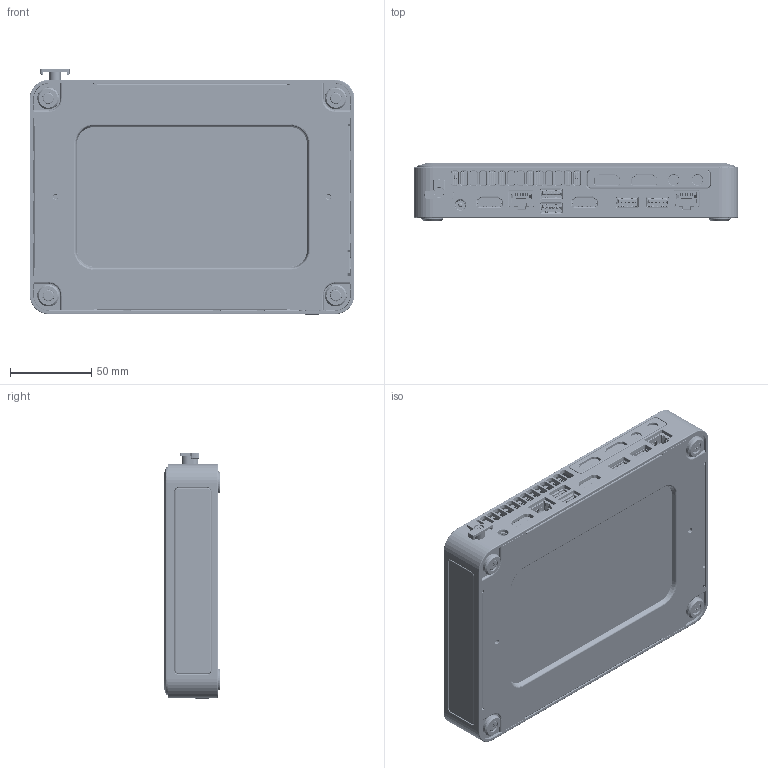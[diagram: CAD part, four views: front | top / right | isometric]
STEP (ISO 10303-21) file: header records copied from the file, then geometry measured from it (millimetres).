
FILE_DESCRIPTION (( 'STEP AP203' ), '1' );
FILE_NAME ('NUC_FB_With Capture.STEP', '2020-08-12T22:39:58', ( '' ), ( '' ), 'SwSTEP 2.0', 'SolidWorks 2019', '' );
FILE_SCHEMA (( 'CONFIG_CONTROL_DESIGN' ));
Length unit declared in the file: millimetre
Products named in the file (41): THERMAL_FB_HS_20200214_ASM; ASM_MB_AUSTIN_BEACH_B_INTEL_ASM; 10-084-004145_LOTES; BKT_E_RING_NUC_3; 11-371-002575_MOSTWELL; BKT_VENT_SIDE_MESH_L_NUC_FB; 10-084-018053_LOTES; THERMAL_FB_HS_20200115_CM-13793_ASM; PLS_POWER_BUTTON_INNER_FB; RUBBER_FEET_FB_INTEL; AL_PLATE__3_5_1; BKT_VENT_SIDE_MESH_R_NUC_FB; AUSTIN_BEACH_TML_SSD_PAD; STD_COVER_BOTTOM-2_NUC_FN; TLLA4-72BWQR_DIPTRONICS; STD_BKT_COVER_BOTTOM-2_NUC_3; THERMAL_FB_HS_20200121_ASM_ASM; PLS_TOP_COVER_FB_INTEL; ASM_PLS_POWER_BUTTON_FB_INTEL_ASM; NUC-BE_FIN__ASM_1_ASM_5_ASM_ASM_ASM; 10-084-009126_LOTES_AUSTINB; PLS_DOOR_B_FB_INTEL; PLS_POWER_BUTTON_FB_INTEL; THERMAL_FB_HS_ASS_ASM_3_ASM_ASM_ASM; NUC-BE_FIN-1__1_5_1; ASM_BKT_BOTTOM_COVER_FB_INTEL_ASM; RUBBER_BATTERY_FB_INTEL; NUC-BE_FIN-2__1_5_1; ASM_PLS_TOP_COVER_FB_INTEL_ASM; NUC-FB_MODULE_ASM_5_ASM_5_ASM_A_ASM; FB_SPONGE_1_3_5_1; THERMAL_FB_HS_20191129-1_ASM_6__ASM; SCREW_COVER_BOTTOM_FB_INTEL; THERMAL_FB_HS_20200115_CM-13758_ASM; ASM_CHASSIS_FORT_BEACH_INTEL_ASM; NUC_FB_With Capture; 11-367-012200_SINGATRON; SCREW_I_M2_5X11; 10-083-019864_MOSTWELL; BKT_BOTTOM_COVER_FB_INTEL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
Assembly tree (124 placements, depth 10):
  NUC_FB_With Capture
    ASM_MB_AUSTIN_BEACH_B_INTEL_ASM
      10-084-009126_LOTES_AUSTINB
      10-084-004145_LOTES  x3
      TLLA4-72BWQR_DIPTRONICS
      11-371-002575_MOSTWELL
      10-083-019864_MOSTWELL  x2
      11-367-012200_SINGATRON  x2
      10-084-018053_LOTES
    ASM_CHASSIS_FORT_BEACH_INTEL_ASM
      ASM_BKT_BOTTOM_COVER_FB_INTEL_ASM
        BKT_BOTTOM_COVER_FB_INTEL
        STD_COVER_BOTTOM-2_NUC_FN  x2
        RUBBER_BATTERY_FB_INTEL
        AUSTIN_BEACH_TML_SSD_PAD  x2
        RUBBER_FEET_FB_INTEL  x4
        SCREW_COVER_BOTTOM_FB_INTEL  x4
        BKT_E_RING_NUC_3  x4
        STD_BKT_COVER_BOTTOM-2_NUC_3  x5
      ASM_PLS_TOP_COVER_FB_INTEL_ASM
        PLS_TOP_COVER_FB_INTEL
        ASM_PLS_POWER_BUTTON_FB_INTEL_ASM
          PLS_POWER_BUTTON_FB_INTEL
          PLS_POWER_BUTTON_INNER_FB
        PLS_DOOR_B_FB_INTEL
        BKT_VENT_SIDE_MESH_R_NUC_FB
        BKT_VENT_SIDE_MESH_L_NUC_FB
        PLS_LINE-BUCKLE_FB_INTEL
        SCREW_I_M2_5X11
    THERMAL_FB_HS_20200214_ASM
      THERMAL_FB_HS_20200121_ASM_ASM
        THERMAL_FB_HS_20200115_CM-13793_ASM
          THERMAL_FB_HS_20200115_CM-13758_ASM
            THERMAL_FB_HS_20191129-1_ASM_6__ASM
              THERMAL_FB_HS_ASS_ASM_3_ASM_ASM_ASM
                NUC-FB_MODULE_ASM_5_ASM_5_ASM_A_ASM
                  NUC-BE_FIN__ASM_1_ASM_5_ASM_ASM_ASM
                    NUC-BE_FIN-1__1_5_1  x66
                  AL_PLATE__3_5_1
                  FB_SPONGE_1_3_5_1
Bounding box: 200 x 35 x 151.7 mm (x, y, z)
Volume: 139571.2 mm3; surface area: 231545 mm2
Topology: 114 solids, 214 shells, 19724 faces, 55855 edges, 36165 vertices
Faces by surface type: plane 13379, cylinder 4681, bspline 1118, cone 540, torus 6
Full cylindrical faces by diameter (mm): 0.7 x2, 0.8 x4, 0.88 x2, 0.9 x2, 0.98 x2, 1 x2, 1.2 x2, 1.28 x2, 1.35 x1, 1.38 x2, 1.4 x1, 2.5 x6, 2.6 x1, 3 x6, 3.5 x1, 3.8 x4, 4.6 x2, 4.7 x4, 5 x5, 5.08 x1, 5.2 x6, 5.5 x9, 6 x1, 6.3 x5, 6.7 x6, 6.8 x8, 7 x2
Entity records: 471019 total; most frequent: CARTESIAN_POINT 145337, ORIENTED_EDGE 72219, DIRECTION 57352, EDGE_CURVE 36153, VECTOR 25354, LINE 25354, VERTEX_POINT 23469, AXIS2_PLACEMENT_3D 15999
